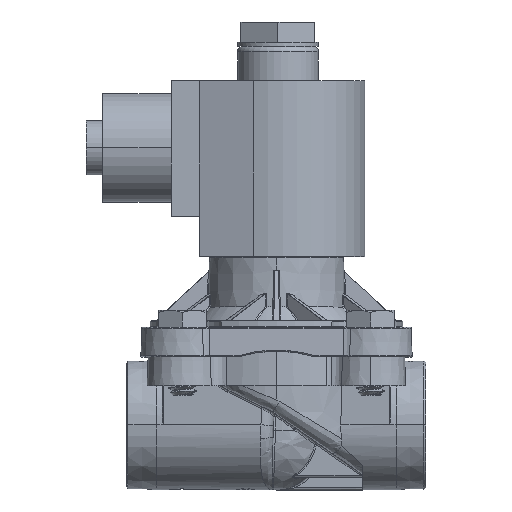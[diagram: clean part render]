
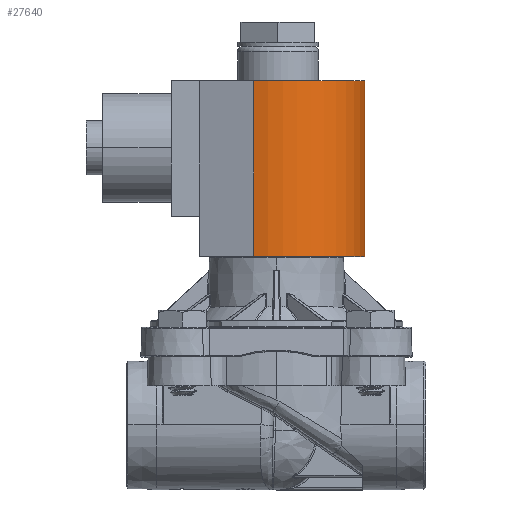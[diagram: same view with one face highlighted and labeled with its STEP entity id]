
A CAD part, top view. The second image highlights one B-rep face of the part: STEP entity #27640.
In plain terms, the highlighted cylindrical face has radius 20.32 mm (diameter 40.64 mm), a partial arc.
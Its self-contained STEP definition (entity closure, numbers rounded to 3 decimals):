
#653 = LINE ( 'NONE', #1181, #30372 ) ;
#1181 = CARTESIAN_POINT ( 'NONE',  ( -5.243, 73.508, 18.879 ) ) ;
#3050 = EDGE_CURVE ( 'NONE', #25124, #30649, #71885, .T. ) ;
#9059 = CARTESIAN_POINT ( 'NONE',  ( 20.685, 73.508, -0.652 ) ) ;
#14638 = LINE ( 'NONE', #72208, #57556 ) ;
#24944 = DIRECTION ( 'NONE',  ( 0., 1., 0. ) ) ;
#25124 = VERTEX_POINT ( 'NONE', #30456 ) ;
#26952 = AXIS2_PLACEMENT_3D ( 'NONE', #57458, #66042, #32215 ) ;
#26954 = EDGE_CURVE ( 'NONE', #47234, #25124, #653, .T. ) ;
#27640 = ADVANCED_FACE ( 'Defeatured_0_1744', ( #97879 ), #65509, .T. ) ;
#29726 = CARTESIAN_POINT ( 'NONE',  ( 20.685, 32.36, -0.652 ) ) ;
#30372 = VECTOR ( 'NONE', #82476, 1000. ) ;
#30456 = CARTESIAN_POINT ( 'NONE',  ( -5.243, 32.36, 18.879 ) ) ;
#30649 = VERTEX_POINT ( 'NONE', #29726 ) ;
#32215 = DIRECTION ( 'NONE',  ( 1., 0., 0. ) ) ;
#41626 = DIRECTION ( 'NONE',  ( -1., 0., 0. ) ) ;
#42174 = EDGE_LOOP ( 'NONE', ( #72627, #67734, #81419, #81002 ) ) ;
#44954 = AXIS2_PLACEMENT_3D ( 'NONE', #85493, #60213, #76859 ) ;
#47234 = VERTEX_POINT ( 'NONE', #56149 ) ;
#56149 = CARTESIAN_POINT ( 'NONE',  ( -5.243, 73.508, 18.879 ) ) ;
#57016 = CIRCLE ( 'NONE', #44954, 20.32 ) ;
#57458 = CARTESIAN_POINT ( 'NONE',  ( 0.365, 73.508, -0.652 ) ) ;
#57556 = VECTOR ( 'NONE', #105101, 1000. ) ;
#60213 = DIRECTION ( 'NONE',  ( 0., 1., 0. ) ) ;
#63348 = AXIS2_PLACEMENT_3D ( 'NONE', #67379, #24944, #41626 ) ;
#65509 = CYLINDRICAL_SURFACE ( 'NONE', #26952, 20.32 ) ;
#66042 = DIRECTION ( 'NONE',  ( 0., -1., 0. ) ) ;
#66552 = EDGE_CURVE ( 'NONE', #47234, #95734, #57016, .T. ) ;
#67379 = CARTESIAN_POINT ( 'NONE',  ( 0.365, 32.36, -0.652 ) ) ;
#67734 = ORIENTED_EDGE ( 'NONE', *, *, #66552, .F. ) ;
#71885 = CIRCLE ( 'NONE', #63348, 20.32 ) ;
#72208 = CARTESIAN_POINT ( 'NONE',  ( 20.685, 73.508, -0.652 ) ) ;
#72627 = ORIENTED_EDGE ( 'NONE', *, *, #94172, .F. ) ;
#76859 = DIRECTION ( 'NONE',  ( -1., 0., 0. ) ) ;
#81002 = ORIENTED_EDGE ( 'NONE', *, *, #3050, .T. ) ;
#81419 = ORIENTED_EDGE ( 'NONE', *, *, #26954, .T. ) ;
#82476 = DIRECTION ( 'NONE',  ( 0., -1., 0. ) ) ;
#85493 = CARTESIAN_POINT ( 'NONE',  ( 0.365, 73.508, -0.652 ) ) ;
#94172 = EDGE_CURVE ( 'NONE', #95734, #30649, #14638, .T. ) ;
#95734 = VERTEX_POINT ( 'NONE', #9059 ) ;
#97879 = FACE_OUTER_BOUND ( 'NONE', #42174, .T. ) ;
#105101 = DIRECTION ( 'NONE',  ( 0., -1., 0. ) ) ;
